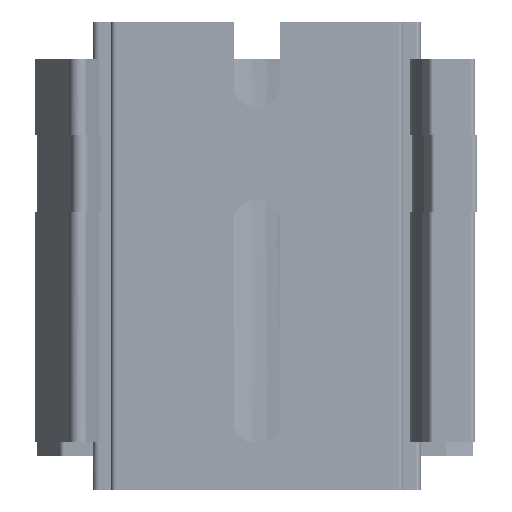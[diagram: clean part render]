
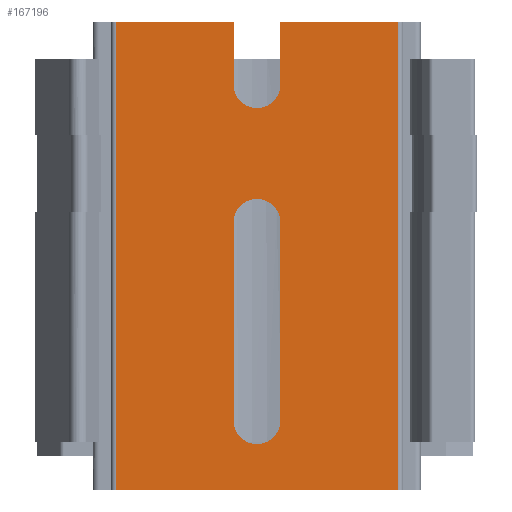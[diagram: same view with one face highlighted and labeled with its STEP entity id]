
A CAD part, front view. The second image highlights one B-rep face of the part: STEP entity #167196.
In plain terms, the highlighted planar face has unit normal (0, -1, 0).
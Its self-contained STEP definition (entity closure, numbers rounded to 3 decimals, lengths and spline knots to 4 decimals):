
#1912=CARTESIAN_POINT('',(2.7355,0.,0.0063));
#1913=DIRECTION('',(0.,-1.,0.));
#1914=DIRECTION('',(-1.,0.,0.));
#1915=AXIS2_PLACEMENT_3D('',#1912,#1913,#1914);
#1917=DIRECTION('',(1.,0.,0.));
#1918=VECTOR('',#1917,0.4961);
#1919=CARTESIAN_POINT('',(2.8339,0.,0.2701));
#1920=LINE('',#1919,#1918);
#1921=DIRECTION('',(-1.,0.,0.));
#1922=VECTOR('',#1921,1.189);
#1923=CARTESIAN_POINT('',(3.33,0.,
-1.6984));
#1924=LINE('',#1923,#1922);
#1925=DIRECTION('',(1.,0.,0.));
#1926=VECTOR('',#1925,0.4961);
#1927=CARTESIAN_POINT('',(2.141,0.,
0.2701));
#1928=LINE('',#1927,#1926);
#1929=DIRECTION('',(0.,0.,-1.));
#1930=VECTOR('',#1929,0.2638);
#1931=CARTESIAN_POINT('',(2.6371,0.,0.2701));
#1932=LINE('',#1931,#1930);
#1933=CARTESIAN_POINT('',(2.7355,0.,-1.4071));
#1934=DIRECTION('',(0.,-1.,0.));
#1935=DIRECTION('',(-1.,0.,0.));
#1936=AXIS2_PLACEMENT_3D('',#1933,#1934,#1935);
#1938=CARTESIAN_POINT('',(2.7355,0.,-0.5724));
#1939=DIRECTION('',(0.,-1.,0.));
#1940=DIRECTION('',(1.,0.,0.));
#1941=AXIS2_PLACEMENT_3D('',#1938,#1939,#1940);
#1943=DIRECTION('',(0.,0.,-1.));
#1944=VECTOR('',#1943,0.2638);
#1945=CARTESIAN_POINT('',(2.8339,0.,0.2701));
#1946=LINE('',#1945,#1944);
#2123=DIRECTION('',(0.,0.,-1.));
#2124=VECTOR('',#2123,1.9685);
#2125=CARTESIAN_POINT('',(2.141,0.,
0.2701));
#2126=LINE('',#2125,#2124);
#75768=DIRECTION('',(0.,0.,1.));
#75769=VECTOR('',#75768,1.9685);
#75770=CARTESIAN_POINT('',(3.33,0.,
-1.6984));
#75771=LINE('',#75770,#75769);
#126182=DIRECTION('',(0.,0.,1.));
#126183=VECTOR('',#126182,0.8346);
#126184=CARTESIAN_POINT('',(2.6371,0.,-1.4071));
#126185=LINE('',#126184,#126183);
#126194=DIRECTION('',(0.,0.,-1.));
#126195=VECTOR('',#126194,0.8346);
#126196=CARTESIAN_POINT('',(2.8339,0.,-0.5724));
#126197=LINE('',#126196,#126195);
#128612=CARTESIAN_POINT('',(2.141,0.,
-1.6984));
#128613=VERTEX_POINT('',#128612);
#128614=CARTESIAN_POINT('',(3.33,0.,
-1.6984));
#128616=VERTEX_POINT('',#128614);
#128642=CARTESIAN_POINT('',(2.6371,0.,0.2701));
#128644=VERTEX_POINT('',#128642);
#128646=CARTESIAN_POINT('',(2.141,0.,
0.2701));
#128648=VERTEX_POINT('',#128646);
#128673=CARTESIAN_POINT('',(2.8339,0.,0.2701));
#128675=VERTEX_POINT('',#128673);
#128700=CARTESIAN_POINT('',(3.33,0.,
0.2701));
#128701=VERTEX_POINT('',#128700);
#128702=CARTESIAN_POINT('',(2.6371,0.,0.0063));
#128704=VERTEX_POINT('',#128702);
#128706=CARTESIAN_POINT('',(2.6371,0.,-1.4071));
#128707=CARTESIAN_POINT('',(2.8339,0.,-1.4071));
#128708=VERTEX_POINT('',#128706);
#128709=VERTEX_POINT('',#128707);
#128710=CARTESIAN_POINT('',(2.8339,0.,-0.5724));
#128711=VERTEX_POINT('',#128710);
#128712=CARTESIAN_POINT('',(2.6371,0.,-0.5724));
#128713=VERTEX_POINT('',#128712);
#128714=CARTESIAN_POINT('',(2.8339,0.,0.0063));
#128715=VERTEX_POINT('',#128714);
#167164=CARTESIAN_POINT('',(2.7355,0.,-0.7142));
#167165=DIRECTION('',(0.,1.,0.));
#167166=DIRECTION('',(1.,0.,0.));
#167167=AXIS2_PLACEMENT_3D('',#167164,#167165,#167166);
#167168=PLANE('',#167167);
#167169=ORIENTED_EDGE('',*,*,#167154,.T.);
#167171=ORIENTED_EDGE('',*,*,#167170,.F.);
#167173=ORIENTED_EDGE('',*,*,#167172,.T.);
#167175=ORIENTED_EDGE('',*,*,#167174,.F.);
#167177=ORIENTED_EDGE('',*,*,#167176,.T.);
#167179=ORIENTED_EDGE('',*,*,#167178,.F.);
#167181=ORIENTED_EDGE('',*,*,#167180,.T.);
#167183=ORIENTED_EDGE('',*,*,#167182,.T.);
#167184=EDGE_LOOP('',(#167169,#167171,#167173,#167175,#167177,#167179,#167181,
#167183));
#167185=FACE_OUTER_BOUND('',#167184,.F.);
#167187=ORIENTED_EDGE('',*,*,#167186,.T.);
#167189=ORIENTED_EDGE('',*,*,#167188,.F.);
#167191=ORIENTED_EDGE('',*,*,#167190,.T.);
#167193=ORIENTED_EDGE('',*,*,#167192,.F.);
#167194=EDGE_LOOP('',(#167187,#167189,#167191,#167193));
#167195=FACE_BOUND('',#167194,.F.);
#167196=ADVANCED_FACE('',(#167185,#167195),#167168,.F.);
#1916=CIRCLE('',#1915,0.0984);
#1937=CIRCLE('',#1936,0.0984);
#1942=CIRCLE('',#1941,0.0984);
#167154=EDGE_CURVE('',#128704,#128715,#1916,.T.);
#167170=EDGE_CURVE('',#128675,#128715,#1946,.T.);
#167172=EDGE_CURVE('',#128675,#128701,#1920,.T.);
#167174=EDGE_CURVE('',#128616,#128701,#75771,.T.);
#167176=EDGE_CURVE('',#128616,#128613,#1924,.T.);
#167178=EDGE_CURVE('',#128648,#128613,#2126,.T.);
#167180=EDGE_CURVE('',#128648,#128644,#1928,.T.);
#167182=EDGE_CURVE('',#128644,#128704,#1932,.T.);
#167186=EDGE_CURVE('',#128708,#128709,#1937,.T.);
#167188=EDGE_CURVE('',#128711,#128709,#126197,.T.);
#167190=EDGE_CURVE('',#128711,#128713,#1942,.T.);
#167192=EDGE_CURVE('',#128708,#128713,#126185,.T.);
